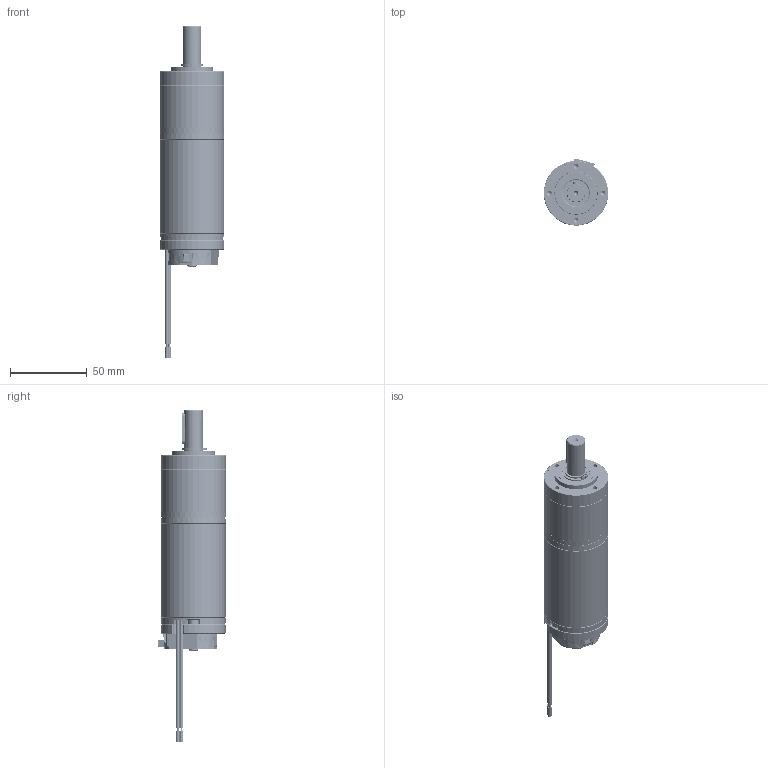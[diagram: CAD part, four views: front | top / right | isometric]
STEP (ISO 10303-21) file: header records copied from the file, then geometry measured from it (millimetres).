
FILE_DESCRIPTION (( 'STEP AP214' ), '1' );
FILE_NAME ('BRx42-25-PGx42 (1 Stage) - Diff Encoder.STEP', '2025-05-13T07:01:05', ( '' ), ( '' ), 'SwSTEP 2.0', 'SolidWorks 2023', '' );
FILE_SCHEMA (( 'AUTOMOTIVE_DESIGN' ));
Length unit declared in the file: millimetre
Products named in the file (1): BRx42-25-PGx42 (1 Stage) - Diff Encoder
Bounding box: 42 x 43.94 x 216.35 mm (x, y, z)
Volume: 103033.5 mm3; surface area: 64222.3 mm2
Topology: 27 solids, 27 shells, 7876 faces, 20902 edges, 13758 vertices
Faces by surface type: plane 5161, cylinder 1760, cone 496, bspline 227, torus 216, sphere 16
Entity records: 342918 total; most frequent: CARTESIAN_POINT 58608, ORIENTED_EDGE 41770, DIRECTION 39708, EDGE_CURVE 20885, LINE 14778, VECTOR 14778, VERTEX_POINT 13758, AXIS2_PLACEMENT_3D 12465
